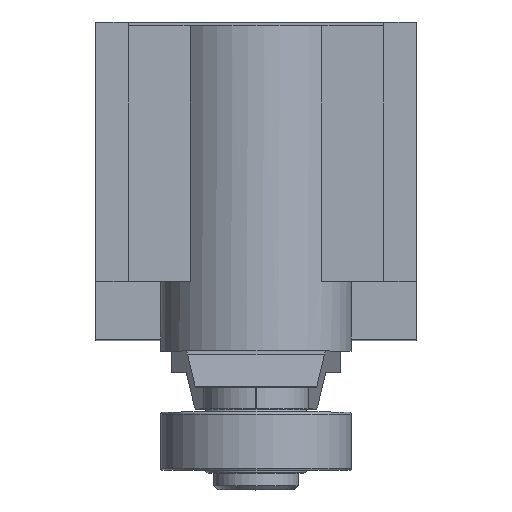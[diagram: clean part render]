
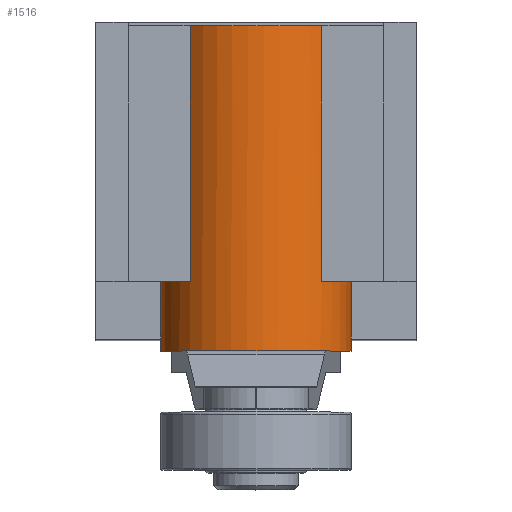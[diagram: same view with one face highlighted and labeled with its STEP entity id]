
A CAD part, top view. The second image highlights one B-rep face of the part: STEP entity #1516.
In plain terms, the highlighted cylindrical face has radius 9 mm (diameter 18 mm), a full revolution.
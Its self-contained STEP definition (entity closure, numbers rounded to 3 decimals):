
#1305=CARTESIAN_POINT('',(4.975,-9.5,63.));
#1306=VERTEX_POINT('',#1305);
#1307=CARTESIAN_POINT('',(-4.975,-9.5,63.));
#1308=VERTEX_POINT('',#1307);
#1309=CARTESIAN_POINT('',(0.,-9.5,70.5));
#1310=DIRECTION('',(0.0,1.0,0.0));
#1311=DIRECTION('',(-1.0,0.0,0.0));
#1312=AXIS2_PLACEMENT_3D('',#1309,#1310,#1311);
#1313=CIRCLE('',#1312,9.0);
#1314=EDGE_CURVE('',#1306,#1308,#1313,.T.);
#1338=CARTESIAN_POINT('',(-6.225,-9.5,77.0));
#1339=VERTEX_POINT('',#1338);
#1340=CARTESIAN_POINT('',(0.,-9.5,70.5));
#1341=DIRECTION('',(0.0,1.0,0.0));
#1342=DIRECTION('',(-1.0,0.0,0.0));
#1343=AXIS2_PLACEMENT_3D('',#1340,#1341,#1342);
#1344=CIRCLE('',#1343,9.0);
#1345=EDGE_CURVE('',#1308,#1339,#1344,.T.);
#1385=CARTESIAN_POINT('',(6.225,-9.5,77.0));
#1386=VERTEX_POINT('',#1385);
#1393=CARTESIAN_POINT('',(0.,-9.5,70.5));
#1394=DIRECTION('',(0.0,1.0,0.0));
#1395=DIRECTION('',(-1.0,0.0,0.0));
#1396=AXIS2_PLACEMENT_3D('',#1393,#1394,#1395);
#1397=CIRCLE('',#1396,9.0);
#1398=EDGE_CURVE('',#1386,#1306,#1397,.T.);
#1455=CARTESIAN_POINT('',(-6.225,14.6,77.));
#1456=VERTEX_POINT('',#1455);
#1463=CARTESIAN_POINT('',(6.225,14.6,77.));
#1464=VERTEX_POINT('',#1463);
#1465=CARTESIAN_POINT('',(0.,14.6,70.5));
#1466=DIRECTION('',(0.0,-1.0,0.0));
#1467=DIRECTION('',(-1.0,0.0,0.0));
#1468=AXIS2_PLACEMENT_3D('',#1465,#1466,#1467);
#1469=CIRCLE('',#1468,9.0);
#1470=EDGE_CURVE('',#1464,#1456,#1469,.T.);
#1482=CARTESIAN_POINT('',(0.,-9.5,70.5));
#1483=DIRECTION('',(0.0,-1.0,0.0));
#1484=DIRECTION('',(-1.0,0.0,0.0));
#1485=AXIS2_PLACEMENT_3D('',#1482,#1483,#1484);
#1486=CYLINDRICAL_SURFACE('',#1485,9.0);
#1487=CARTESIAN_POINT('',(6.225,14.6,77.));
#1488=DIRECTION('',(0.0,-1.0,0.0));
#1489=VECTOR('',#1488,24.1);
#1490=LINE('',#1487,#1489);
#1491=EDGE_CURVE('',#1464,#1386,#1490,.T.);
#1492=ORIENTED_EDGE('',*,*,#1491,.F.);
#1493=ORIENTED_EDGE('',*,*,#1470,.T.);
#1494=CARTESIAN_POINT('',(-6.225,-9.5,77.));
#1495=DIRECTION('',(0.0,1.0,0.0));
#1496=VECTOR('',#1495,24.1);
#1497=LINE('',#1494,#1496);
#1498=EDGE_CURVE('',#1339,#1456,#1497,.T.);
#1499=ORIENTED_EDGE('',*,*,#1498,.F.);
#1500=ORIENTED_EDGE('',*,*,#1345,.F.);
#1501=ORIENTED_EDGE('',*,*,#1314,.F.);
#1502=ORIENTED_EDGE('',*,*,#1398,.F.);
#1503=EDGE_LOOP('',(#1492,#1493,#1499,#1500,#1501,#1502));
#1504=FACE_OUTER_BOUND('',#1503,.T.);
#1505=CARTESIAN_POINT('',(9.,-16.1,70.5));
#1506=VERTEX_POINT('',#1505);
#1507=CARTESIAN_POINT('',(0.,-16.1,70.5));
#1508=DIRECTION('',(0.0,1.0,0.0));
#1509=DIRECTION('',(-1.0,0.0,0.0));
#1510=AXIS2_PLACEMENT_3D('',#1507,#1508,#1509);
#1511=CIRCLE('',#1510,9.0);
#1512=EDGE_CURVE('',#1506,#1506,#1511,.T.);
#1513=ORIENTED_EDGE('',*,*,#1512,.T.);
#1514=EDGE_LOOP('',(#1513));
#1515=FACE_BOUND('',#1514,.T.);
#1516=ADVANCED_FACE('',(#1504,#1515),#1486,.T.);
